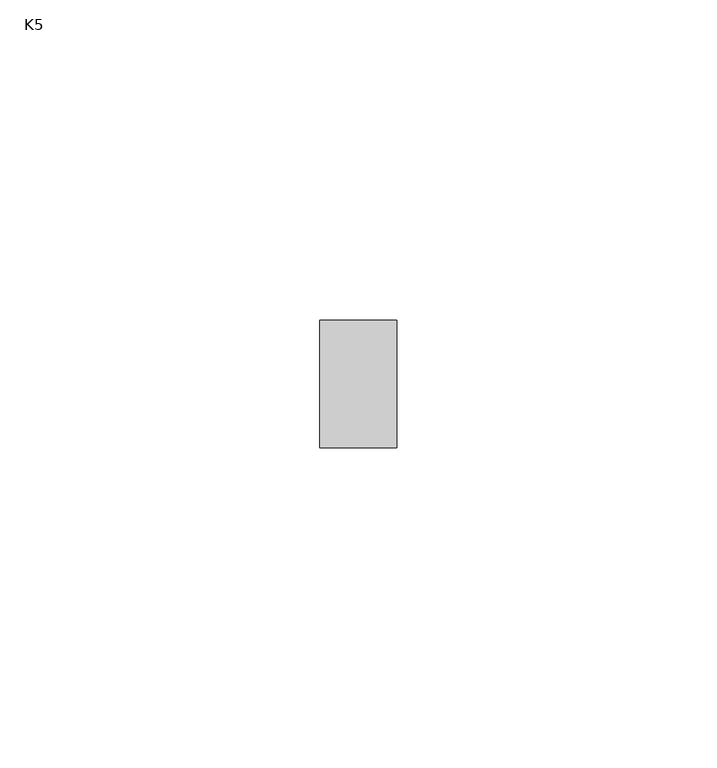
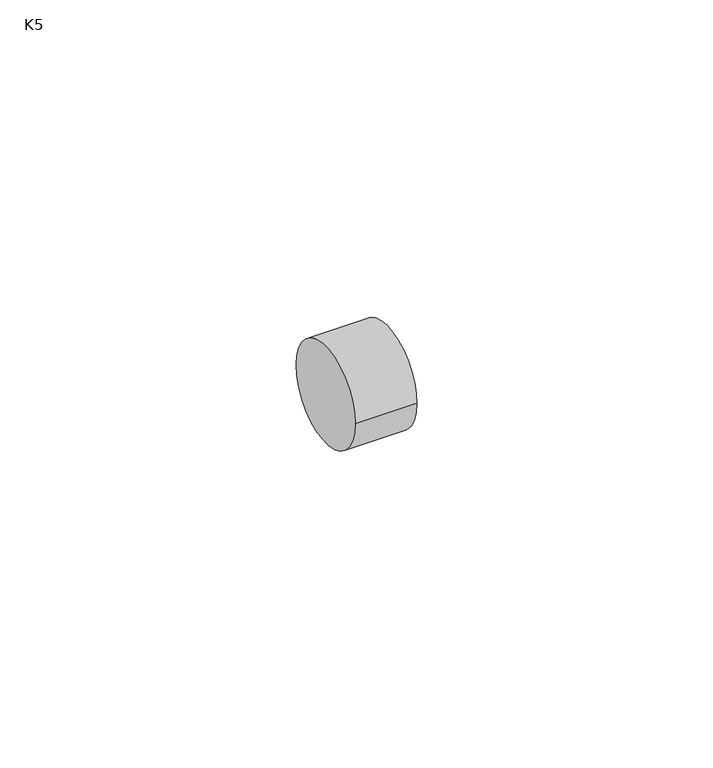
"""IFC4 building model written with IfcOpenShell, lengths in millimetres: pipe fitting geometry, AmancoWavin_ConexõesdeTubos_K5Cap : K5."""

from ifc_helpers import new_model, si_unit, point, frame, origin, origin_2d, place, context, project, spatial, circle_curve, trimmed, segment, composite_curve, outline, extrude, source, transform, mapped, element, save


def k5_2a702368(model_context):
    return source(origin(), model_context, "Body", "SweptSolid", [
        extrude(outline(composite_curve([segment(trimmed(circle_curve(origin_2d(), 10.0), [point((-10.0, 0.0))], [point((10.0, 0.0))], False, "CARTESIAN"), True, "CONTINUOUS"), segment(trimmed(circle_curve(origin_2d(), 10.0), [point((10.0, 0.0))], [point((-10.0, 0.0))], False, "CARTESIAN"), True, "CONTINUOUS")], self_intersect=False)), frame((-12.0, 0.0, 0.0), z_axis=(1.0, 0.0, 0.0), x_axis=(0.0, 1.0, 0.0)), (0.0, 0.0, 1.0), 12.0),
    ])


if __name__ == "__main__":
    model = new_model("IFC4")
    model_context = context("Model", 3, world=origin())
    ifc_project = project(units=[si_unit("LENGTHUNIT", "METRE", prefix="MILLI")], contexts=[model_context])
    site = spatial("IfcSite", under=ifc_project)
    building = spatial("IfcBuilding", under=site)
    placement = place(None, origin())
    k5_shape = k5_2a702368(model_context)
    element("IfcPipeFitting", 1, ObjectType="AmancoWavin_ConexõesdeTubos_K5Cap : K5", at=placement, inside=building, context=model_context, shape_type="MappedRepresentation", body=[
        mapped(k5_shape, transform((0.0, 0.0, 0.0), x_axis=(1.0, 0.0, 0.0), y_axis=(0.0, 1.0, 0.0), z_axis=(0.0, 0.0, 1.0))),
    ])
    save(model, "model.ifc")
